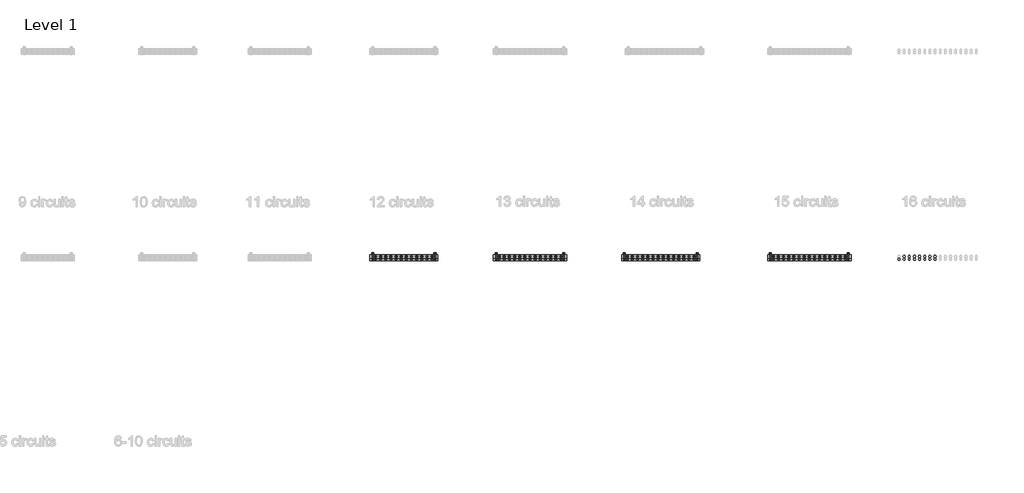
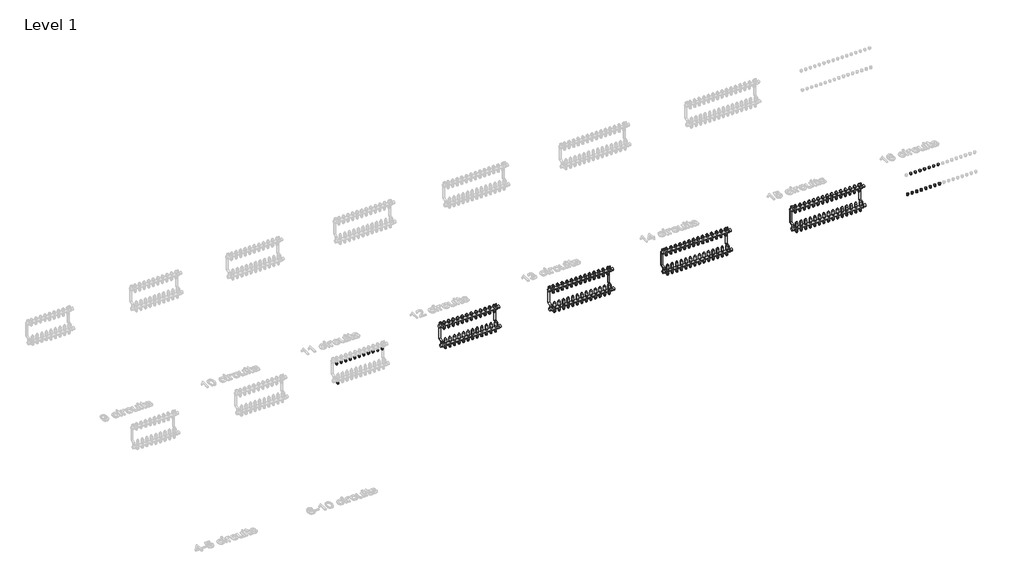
# One storey, part 2 of 13: 135 pipe fittings, 4 valves.
"""IFC4 building model written with IfcOpenShell, lengths in millimetres."""

from ifc_helpers import new_model, si_unit, origin, place, context, project, spatial, transform, mapped, element, save
from components import pipe_fitting_03c6499f, valve_b043caab, valve_d1a48dd4, valve_8c27288c, valve_323f5917, valve_2908c385, valve_c6b07a0e, valve_afcc5f03, valve_d5daf2db, valve_eef75e3c, valve_ba84b301, valve_6797e1c4, valve_e0eb0583, valve_b42ebe50, valve_7d993025, valve_5755080d, valve_f9b138b1

model = new_model("IFC4")

# Units and contexts
model_context = context("Model", 3, world=origin())
ifc_project = project(units=[si_unit("LENGTHUNIT", "METRE", prefix="MILLI")], contexts=[model_context])

# Site, building, storey
site = spatial("IfcSite", under=ifc_project)
building = spatial("IfcBuilding", under=site)
storey = spatial("IfcBuildingStorey", under=building, Name="Level 1", Elevation=0.0)

# Pipe fittings
placement = place(None, origin())
pipe_fitting_shape = pipe_fitting_03c6499f(model_context)
element("IfcPipeFitting", 1, ObjectType="Euroconus screwing for multilayer pipes - Manifold FT : Euroconus screwing for multilayer pipes - Manifold FT", at=placement, inside=storey, context=model_context, shape_type="MappedRepresentation", body=[
    mapped(pipe_fitting_shape, transform((10357.2354504, -417.6772226, -37.0816103), x_axis=(0.0, 0.0, -1.0), y_axis=(0.0, 1.0000000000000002, 0.0), z_axis=(1.0000000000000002, 0.0, 0.0))),
])
element("IfcPipeFitting", 2, ObjectType="Euroconus screwing for multilayer pipes - Manifold FT : Euroconus screwing for multilayer pipes - Manifold FT", at=placement, inside=storey, context=model_context, shape_type="MappedRepresentation", body=[
    mapped(pipe_fitting_shape, transform((10807.2354504, -392.6772226, 172.88733), x_axis=(0.0, 0.0, -1.0), y_axis=(0.0, 1.0000000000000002, 0.0), z_axis=(1.0000000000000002, 0.0, 0.0))),
])
element("IfcPipeFitting", 3, ObjectType="Euroconus screwing for multilayer pipes - Manifold FT : Euroconus screwing for multilayer pipes - Manifold FT", at=placement, inside=storey, context=model_context, shape_type="MappedRepresentation", body=[
    mapped(pipe_fitting_shape, transform((10757.2354504, -392.6772226, 172.88733), x_axis=(0.0, 0.0, -1.0), y_axis=(0.0, 1.0000000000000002, 0.0), z_axis=(1.0000000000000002, 0.0, 0.0))),
])
element("IfcPipeFitting", 4, ObjectType="Euroconus screwing for multilayer pipes - Manifold FT : Euroconus screwing for multilayer pipes - Manifold FT", at=placement, inside=storey, context=model_context, shape_type="MappedRepresentation", body=[
    mapped(pipe_fitting_shape, transform((10707.2354504, -392.6772226, 172.88733), x_axis=(0.0, 0.0, -1.0), y_axis=(0.0, 1.0000000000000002, 0.0), z_axis=(1.0000000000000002, 0.0, 0.0))),
])
element("IfcPipeFitting", 5, ObjectType="Euroconus screwing for multilayer pipes - Manifold FT : Euroconus screwing for multilayer pipes - Manifold FT", at=placement, inside=storey, context=model_context, shape_type="MappedRepresentation", body=[
    mapped(pipe_fitting_shape, transform((10657.2354504, -392.6772226, 172.88733), x_axis=(0.0, 0.0, -1.0), y_axis=(0.0, 1.0000000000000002, 0.0), z_axis=(1.0000000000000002, 0.0, 0.0))),
])
element("IfcPipeFitting", 6, ObjectType="Euroconus screwing for multilayer pipes - Manifold FT : Euroconus screwing for multilayer pipes - Manifold FT", at=placement, inside=storey, context=model_context, shape_type="MappedRepresentation", body=[
    mapped(pipe_fitting_shape, transform((10607.2354504, -392.6772226, 172.88733), x_axis=(0.0, 0.0, -1.0), y_axis=(0.0, 1.0000000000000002, 0.0), z_axis=(1.0000000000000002, 0.0, 0.0))),
])
element("IfcPipeFitting", 7, ObjectType="Euroconus screwing for multilayer pipes - Manifold FT : Euroconus screwing for multilayer pipes - Manifold FT", at=placement, inside=storey, context=model_context, shape_type="MappedRepresentation", body=[
    mapped(pipe_fitting_shape, transform((10557.2354504, -392.6772226, 172.88733), x_axis=(0.0, 0.0, -1.0), y_axis=(0.0, 1.0000000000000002, 0.0), z_axis=(1.0000000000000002, 0.0, 0.0))),
])
element("IfcPipeFitting", 8, ObjectType="Euroconus screwing for multilayer pipes - Manifold FT : Euroconus screwing for multilayer pipes - Manifold FT", at=placement, inside=storey, context=model_context, shape_type="MappedRepresentation", body=[
    mapped(pipe_fitting_shape, transform((10507.2354504, -392.6772226, 172.88733), x_axis=(0.0, 0.0, -1.0), y_axis=(0.0, 1.0000000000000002, 0.0), z_axis=(1.0000000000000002, 0.0, 0.0))),
])
element("IfcPipeFitting", 9, ObjectType="Euroconus screwing for multilayer pipes - Manifold FT : Euroconus screwing for multilayer pipes - Manifold FT", at=placement, inside=storey, context=model_context, shape_type="MappedRepresentation", body=[
    mapped(pipe_fitting_shape, transform((10457.2354504, -392.6772226, 172.88733), x_axis=(0.0, 0.0, -1.0), y_axis=(0.0, 1.0000000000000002, 0.0), z_axis=(1.0000000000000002, 0.0, 0.0))),
])
element("IfcPipeFitting", 10, ObjectType="Euroconus screwing for multilayer pipes - Manifold FT : Euroconus screwing for multilayer pipes - Manifold FT", at=placement, inside=storey, context=model_context, shape_type="MappedRepresentation", body=[
    mapped(pipe_fitting_shape, transform((10407.2354504, -392.6772226, 172.88733), x_axis=(0.0, 0.0, -1.0), y_axis=(0.0, 1.0000000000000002, 0.0), z_axis=(1.0000000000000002, 0.0, 0.0))),
])
element("IfcPipeFitting", 11, ObjectType="Euroconus screwing for multilayer pipes - Manifold FT : Euroconus screwing for multilayer pipes - Manifold FT", at=placement, inside=storey, context=model_context, shape_type="MappedRepresentation", body=[
    mapped(pipe_fitting_shape, transform((10857.2354504, -392.6772226, 172.88733), x_axis=(0.0, 0.0, -1.0), y_axis=(0.0, 1.0000000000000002, 0.0), z_axis=(1.0000000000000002, 0.0, 0.0))),
])
element("IfcPipeFitting", 12, ObjectType="Euroconus screwing for multilayer pipes - Manifold FT : Euroconus screwing for multilayer pipes - Manifold FT", at=placement, inside=storey, context=model_context, shape_type="MappedRepresentation", body=[
    mapped(pipe_fitting_shape, transform((10357.2354504, -392.6772226, 172.88733), x_axis=(0.0, 0.0, -1.0), y_axis=(0.0, 1.0000000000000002, 0.0), z_axis=(1.0000000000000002, 0.0, 0.0))),
])
element("IfcPipeFitting", 13, ObjectType="Euroconus screwing for multilayer pipes - Manifold FT : Euroconus screwing for multilayer pipes - Manifold FT", at=placement, inside=storey, context=model_context, shape_type="MappedRepresentation", body=[
    mapped(pipe_fitting_shape, transform((12037.2354504, -417.6772226, -37.0816103), x_axis=(0.0, 0.0, -1.0), y_axis=(0.0, 1.0000000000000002, 0.0), z_axis=(1.0000000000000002, 0.0, 0.0))),
])
element("IfcPipeFitting", 14, ObjectType="Euroconus screwing for multilayer pipes - Manifold FT : Euroconus screwing for multilayer pipes - Manifold FT", at=placement, inside=storey, context=model_context, shape_type="MappedRepresentation", body=[
    mapped(pipe_fitting_shape, transform((11987.2354504, -417.6772226, -37.0816103), x_axis=(0.0, 0.0, -1.0), y_axis=(0.0, 1.0000000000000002, 0.0), z_axis=(1.0000000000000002, 0.0, 0.0))),
])
element("IfcPipeFitting", 15, ObjectType="Euroconus screwing for multilayer pipes - Manifold FT : Euroconus screwing for multilayer pipes - Manifold FT", at=placement, inside=storey, context=model_context, shape_type="MappedRepresentation", body=[
    mapped(pipe_fitting_shape, transform((11937.2354504, -417.6772226, -37.0816103), x_axis=(0.0, 0.0, -1.0), y_axis=(0.0, 1.0000000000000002, 0.0), z_axis=(1.0000000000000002, 0.0, 0.0))),
])
element("IfcPipeFitting", 16, ObjectType="Euroconus screwing for multilayer pipes - Manifold FT : Euroconus screwing for multilayer pipes - Manifold FT", at=placement, inside=storey, context=model_context, shape_type="MappedRepresentation", body=[
    mapped(pipe_fitting_shape, transform((11887.2354504, -417.6772226, -37.0816103), x_axis=(0.0, 0.0, -1.0), y_axis=(0.0, 1.0000000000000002, 0.0), z_axis=(1.0000000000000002, 0.0, 0.0))),
])
element("IfcPipeFitting", 17, ObjectType="Euroconus screwing for multilayer pipes - Manifold FT : Euroconus screwing for multilayer pipes - Manifold FT", at=placement, inside=storey, context=model_context, shape_type="MappedRepresentation", body=[
    mapped(pipe_fitting_shape, transform((11837.2354504, -417.6772226, -37.0816103), x_axis=(0.0, 0.0, -1.0), y_axis=(0.0, 1.0000000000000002, 0.0), z_axis=(1.0000000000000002, 0.0, 0.0))),
])
element("IfcPipeFitting", 18, ObjectType="Euroconus screwing for multilayer pipes - Manifold FT : Euroconus screwing for multilayer pipes - Manifold FT", at=placement, inside=storey, context=model_context, shape_type="MappedRepresentation", body=[
    mapped(pipe_fitting_shape, transform((11787.2354504, -417.6772226, -37.0816103), x_axis=(0.0, 0.0, -1.0), y_axis=(0.0, 1.0000000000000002, 0.0), z_axis=(1.0000000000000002, 0.0, 0.0))),
])
element("IfcPipeFitting", 19, ObjectType="Euroconus screwing for multilayer pipes - Manifold FT : Euroconus screwing for multilayer pipes - Manifold FT", at=placement, inside=storey, context=model_context, shape_type="MappedRepresentation", body=[
    mapped(pipe_fitting_shape, transform((11737.2354504, -417.6772226, -37.0816103), x_axis=(0.0, 0.0, -1.0), y_axis=(0.0, 1.0000000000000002, 0.0), z_axis=(1.0000000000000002, 0.0, 0.0))),
])
element("IfcPipeFitting", 20, ObjectType="Euroconus screwing for multilayer pipes - Manifold FT : Euroconus screwing for multilayer pipes - Manifold FT", at=placement, inside=storey, context=model_context, shape_type="MappedRepresentation", body=[
    mapped(pipe_fitting_shape, transform((11687.2354504, -417.6772226, -37.0816103), x_axis=(0.0, 0.0, -1.0), y_axis=(0.0, 1.0000000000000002, 0.0), z_axis=(1.0000000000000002, 0.0, 0.0))),
])
element("IfcPipeFitting", 21, ObjectType="Euroconus screwing for multilayer pipes - Manifold FT : Euroconus screwing for multilayer pipes - Manifold FT", at=placement, inside=storey, context=model_context, shape_type="MappedRepresentation", body=[
    mapped(pipe_fitting_shape, transform((11637.2354504, -417.6772226, -37.0816103), x_axis=(0.0, 0.0, -1.0), y_axis=(0.0, 1.0000000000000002, 0.0), z_axis=(1.0000000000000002, 0.0, 0.0))),
])
element("IfcPipeFitting", 22, ObjectType="Euroconus screwing for multilayer pipes - Manifold FT : Euroconus screwing for multilayer pipes - Manifold FT", at=placement, inside=storey, context=model_context, shape_type="MappedRepresentation", body=[
    mapped(pipe_fitting_shape, transform((11587.2354504, -417.6772226, -37.0816103), x_axis=(0.0, 0.0, -1.0), y_axis=(0.0, 1.0000000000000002, 0.0), z_axis=(1.0000000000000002, 0.0, 0.0))),
])
element("IfcPipeFitting", 23, ObjectType="Euroconus screwing for multilayer pipes - Manifold FT : Euroconus screwing for multilayer pipes - Manifold FT", at=placement, inside=storey, context=model_context, shape_type="MappedRepresentation", body=[
    mapped(pipe_fitting_shape, transform((12087.2354504, -417.6772226, -37.0816103), x_axis=(0.0, 0.0, -1.0), y_axis=(0.0, 1.0000000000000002, 0.0), z_axis=(1.0000000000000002, 0.0, 0.0))),
])
element("IfcPipeFitting", 24, ObjectType="Euroconus screwing for multilayer pipes - Manifold FT : Euroconus screwing for multilayer pipes - Manifold FT", at=placement, inside=storey, context=model_context, shape_type="MappedRepresentation", body=[
    mapped(pipe_fitting_shape, transform((11537.2354504, -417.6772226, -37.0816103), x_axis=(0.0, 0.0, -1.0), y_axis=(0.0, 1.0000000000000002, 0.0), z_axis=(1.0000000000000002, 0.0, 0.0))),
])
element("IfcPipeFitting", 25, ObjectType="Euroconus screwing for multilayer pipes - Manifold FT : Euroconus screwing for multilayer pipes - Manifold FT", at=placement, inside=storey, context=model_context, shape_type="MappedRepresentation", body=[
    mapped(pipe_fitting_shape, transform((12037.2354504, -392.6772226, 172.88733), x_axis=(0.0, 0.0, -1.0), y_axis=(0.0, 1.0000000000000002, 0.0), z_axis=(1.0000000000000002, 0.0, 0.0))),
])
element("IfcPipeFitting", 26, ObjectType="Euroconus screwing for multilayer pipes - Manifold FT : Euroconus screwing for multilayer pipes - Manifold FT", at=placement, inside=storey, context=model_context, shape_type="MappedRepresentation", body=[
    mapped(pipe_fitting_shape, transform((11987.2354504, -392.6772226, 172.88733), x_axis=(0.0, 0.0, -1.0), y_axis=(0.0, 1.0000000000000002, 0.0), z_axis=(1.0000000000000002, 0.0, 0.0))),
])
element("IfcPipeFitting", 27, ObjectType="Euroconus screwing for multilayer pipes - Manifold FT : Euroconus screwing for multilayer pipes - Manifold FT", at=placement, inside=storey, context=model_context, shape_type="MappedRepresentation", body=[
    mapped(pipe_fitting_shape, transform((11937.2354504, -392.6772226, 172.88733), x_axis=(0.0, 0.0, -1.0), y_axis=(0.0, 1.0000000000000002, 0.0), z_axis=(1.0000000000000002, 0.0, 0.0))),
])
element("IfcPipeFitting", 28, ObjectType="Euroconus screwing for multilayer pipes - Manifold FT : Euroconus screwing for multilayer pipes - Manifold FT", at=placement, inside=storey, context=model_context, shape_type="MappedRepresentation", body=[
    mapped(pipe_fitting_shape, transform((11887.2354504, -392.6772226, 172.88733), x_axis=(0.0, 0.0, -1.0), y_axis=(0.0, 1.0000000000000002, 0.0), z_axis=(1.0000000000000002, 0.0, 0.0))),
])
element("IfcPipeFitting", 29, ObjectType="Euroconus screwing for multilayer pipes - Manifold FT : Euroconus screwing for multilayer pipes - Manifold FT", at=placement, inside=storey, context=model_context, shape_type="MappedRepresentation", body=[
    mapped(pipe_fitting_shape, transform((11837.2354504, -392.6772226, 172.88733), x_axis=(0.0, 0.0, -1.0), y_axis=(0.0, 1.0000000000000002, 0.0), z_axis=(1.0000000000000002, 0.0, 0.0))),
])
element("IfcPipeFitting", 30, ObjectType="Euroconus screwing for multilayer pipes - Manifold FT : Euroconus screwing for multilayer pipes - Manifold FT", at=placement, inside=storey, context=model_context, shape_type="MappedRepresentation", body=[
    mapped(pipe_fitting_shape, transform((11787.2354504, -392.6772226, 172.88733), x_axis=(0.0, 0.0, -1.0), y_axis=(0.0, 1.0000000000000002, 0.0), z_axis=(1.0000000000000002, 0.0, 0.0))),
])
element("IfcPipeFitting", 31, ObjectType="Euroconus screwing for multilayer pipes - Manifold FT : Euroconus screwing for multilayer pipes - Manifold FT", at=placement, inside=storey, context=model_context, shape_type="MappedRepresentation", body=[
    mapped(pipe_fitting_shape, transform((11737.2354504, -392.6772226, 172.88733), x_axis=(0.0, 0.0, -1.0), y_axis=(0.0, 1.0000000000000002, 0.0), z_axis=(1.0000000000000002, 0.0, 0.0))),
])
element("IfcPipeFitting", 32, ObjectType="Euroconus screwing for multilayer pipes - Manifold FT : Euroconus screwing for multilayer pipes - Manifold FT", at=placement, inside=storey, context=model_context, shape_type="MappedRepresentation", body=[
    mapped(pipe_fitting_shape, transform((11687.2354504, -392.6772226, 172.88733), x_axis=(0.0, 0.0, -1.0), y_axis=(0.0, 1.0000000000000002, 0.0), z_axis=(1.0000000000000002, 0.0, 0.0))),
])
element("IfcPipeFitting", 33, ObjectType="Euroconus screwing for multilayer pipes - Manifold FT : Euroconus screwing for multilayer pipes - Manifold FT", at=placement, inside=storey, context=model_context, shape_type="MappedRepresentation", body=[
    mapped(pipe_fitting_shape, transform((11637.2354504, -392.6772226, 172.88733), x_axis=(0.0, 0.0, -1.0), y_axis=(0.0, 1.0000000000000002, 0.0), z_axis=(1.0000000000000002, 0.0, 0.0))),
])
element("IfcPipeFitting", 34, ObjectType="Euroconus screwing for multilayer pipes - Manifold FT : Euroconus screwing for multilayer pipes - Manifold FT", at=placement, inside=storey, context=model_context, shape_type="MappedRepresentation", body=[
    mapped(pipe_fitting_shape, transform((11587.2354504, -392.6772226, 172.88733), x_axis=(0.0, 0.0, -1.0), y_axis=(0.0, 1.0000000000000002, 0.0), z_axis=(1.0000000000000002, 0.0, 0.0))),
])
element("IfcPipeFitting", 35, ObjectType="Euroconus screwing for multilayer pipes - Manifold FT : Euroconus screwing for multilayer pipes - Manifold FT", at=placement, inside=storey, context=model_context, shape_type="MappedRepresentation", body=[
    mapped(pipe_fitting_shape, transform((12087.2354504, -392.6772226, 172.88733), x_axis=(0.0, 0.0, -1.0), y_axis=(0.0, 1.0000000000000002, 0.0), z_axis=(1.0000000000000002, 0.0, 0.0))),
])
element("IfcPipeFitting", 36, ObjectType="Euroconus screwing for multilayer pipes - Manifold FT : Euroconus screwing for multilayer pipes - Manifold FT", at=placement, inside=storey, context=model_context, shape_type="MappedRepresentation", body=[
    mapped(pipe_fitting_shape, transform((11537.2354504, -392.6772226, 172.88733), x_axis=(0.0, 0.0, -1.0), y_axis=(0.0, 1.0000000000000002, 0.0), z_axis=(1.0000000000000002, 0.0, 0.0))),
])
element("IfcPipeFitting", 37, ObjectType="Euroconus screwing for multilayer pipes - Manifold FT : Euroconus screwing for multilayer pipes - Manifold FT", at=placement, inside=storey, context=model_context, shape_type="MappedRepresentation", body=[
    mapped(pipe_fitting_shape, transform((13287.2354504, -417.6772226, -37.0816103), x_axis=(0.0, 0.0, -1.0), y_axis=(0.0, 1.0000000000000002, 0.0), z_axis=(1.0000000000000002, 0.0, 0.0))),
])
element("IfcPipeFitting", 38, ObjectType="Euroconus screwing for multilayer pipes - Manifold FT : Euroconus screwing for multilayer pipes - Manifold FT", at=placement, inside=storey, context=model_context, shape_type="MappedRepresentation", body=[
    mapped(pipe_fitting_shape, transform((13237.2354504, -417.6772226, -37.0816103), x_axis=(0.0, 0.0, -1.0), y_axis=(0.0, 1.0000000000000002, 0.0), z_axis=(1.0000000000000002, 0.0, 0.0))),
])
element("IfcPipeFitting", 39, ObjectType="Euroconus screwing for multilayer pipes - Manifold FT : Euroconus screwing for multilayer pipes - Manifold FT", at=placement, inside=storey, context=model_context, shape_type="MappedRepresentation", body=[
    mapped(pipe_fitting_shape, transform((13187.2354504, -417.6772226, -37.0816103), x_axis=(0.0, 0.0, -1.0), y_axis=(0.0, 1.0000000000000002, 0.0), z_axis=(1.0000000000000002, 0.0, 0.0))),
])
element("IfcPipeFitting", 40, ObjectType="Euroconus screwing for multilayer pipes - Manifold FT : Euroconus screwing for multilayer pipes - Manifold FT", at=placement, inside=storey, context=model_context, shape_type="MappedRepresentation", body=[
    mapped(pipe_fitting_shape, transform((13137.2354504, -417.6772226, -37.0816103), x_axis=(0.0, 0.0, -1.0), y_axis=(0.0, 1.0000000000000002, 0.0), z_axis=(1.0000000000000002, 0.0, 0.0))),
])
element("IfcPipeFitting", 41, ObjectType="Euroconus screwing for multilayer pipes - Manifold FT : Euroconus screwing for multilayer pipes - Manifold FT", at=placement, inside=storey, context=model_context, shape_type="MappedRepresentation", body=[
    mapped(pipe_fitting_shape, transform((13087.2354504, -417.6772226, -37.0816103), x_axis=(0.0, 0.0, -1.0), y_axis=(0.0, 1.0000000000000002, 0.0), z_axis=(1.0000000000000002, 0.0, 0.0))),
])
element("IfcPipeFitting", 42, ObjectType="Euroconus screwing for multilayer pipes - Manifold FT : Euroconus screwing for multilayer pipes - Manifold FT", at=placement, inside=storey, context=model_context, shape_type="MappedRepresentation", body=[
    mapped(pipe_fitting_shape, transform((13037.2354504, -417.6772226, -37.0816103), x_axis=(0.0, 0.0, -1.0), y_axis=(0.0, 1.0000000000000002, 0.0), z_axis=(1.0000000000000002, 0.0, 0.0))),
])
element("IfcPipeFitting", 43, ObjectType="Euroconus screwing for multilayer pipes - Manifold FT : Euroconus screwing for multilayer pipes - Manifold FT", at=placement, inside=storey, context=model_context, shape_type="MappedRepresentation", body=[
    mapped(pipe_fitting_shape, transform((12987.2354504, -417.6772226, -37.0816103), x_axis=(0.0, 0.0, -1.0), y_axis=(0.0, 1.0000000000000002, 0.0), z_axis=(1.0000000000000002, 0.0, 0.0))),
])
element("IfcPipeFitting", 44, ObjectType="Euroconus screwing for multilayer pipes - Manifold FT : Euroconus screwing for multilayer pipes - Manifold FT", at=placement, inside=storey, context=model_context, shape_type="MappedRepresentation", body=[
    mapped(pipe_fitting_shape, transform((12937.2354504, -417.6772226, -37.0816103), x_axis=(0.0, 0.0, -1.0), y_axis=(0.0, 1.0000000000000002, 0.0), z_axis=(1.0000000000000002, 0.0, 0.0))),
])
element("IfcPipeFitting", 45, ObjectType="Euroconus screwing for multilayer pipes - Manifold FT : Euroconus screwing for multilayer pipes - Manifold FT", at=placement, inside=storey, context=model_context, shape_type="MappedRepresentation", body=[
    mapped(pipe_fitting_shape, transform((12887.2354504, -417.6772226, -37.0816103), x_axis=(0.0, 0.0, -1.0), y_axis=(0.0, 1.0000000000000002, 0.0), z_axis=(1.0000000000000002, 0.0, 0.0))),
])
element("IfcPipeFitting", 46, ObjectType="Euroconus screwing for multilayer pipes - Manifold FT : Euroconus screwing for multilayer pipes - Manifold FT", at=placement, inside=storey, context=model_context, shape_type="MappedRepresentation", body=[
    mapped(pipe_fitting_shape, transform((12837.2354504, -417.6772226, -37.0816103), x_axis=(0.0, 0.0, -1.0), y_axis=(0.0, 1.0000000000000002, 0.0), z_axis=(1.0000000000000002, 0.0, 0.0))),
])
element("IfcPipeFitting", 47, ObjectType="Euroconus screwing for multilayer pipes - Manifold FT : Euroconus screwing for multilayer pipes - Manifold FT", at=placement, inside=storey, context=model_context, shape_type="MappedRepresentation", body=[
    mapped(pipe_fitting_shape, transform((12787.2354504, -417.6772226, -37.0816103), x_axis=(0.0, 0.0, -1.0), y_axis=(0.0, 1.0000000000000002, 0.0), z_axis=(1.0000000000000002, 0.0, 0.0))),
])
element("IfcPipeFitting", 48, ObjectType="Euroconus screwing for multilayer pipes - Manifold FT : Euroconus screwing for multilayer pipes - Manifold FT", at=placement, inside=storey, context=model_context, shape_type="MappedRepresentation", body=[
    mapped(pipe_fitting_shape, transform((13337.2354504, -417.6772226, -37.0816103), x_axis=(0.0, 0.0, -1.0), y_axis=(0.0, 1.0000000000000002, 0.0), z_axis=(1.0000000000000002, 0.0, 0.0))),
])
element("IfcPipeFitting", 49, ObjectType="Euroconus screwing for multilayer pipes - Manifold FT : Euroconus screwing for multilayer pipes - Manifold FT", at=placement, inside=storey, context=model_context, shape_type="MappedRepresentation", body=[
    mapped(pipe_fitting_shape, transform((12737.2354504, -417.6772226, -37.0816103), x_axis=(0.0, 0.0, -1.0), y_axis=(0.0, 1.0000000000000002, 0.0), z_axis=(1.0000000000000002, 0.0, 0.0))),
])
element("IfcPipeFitting", 50, ObjectType="Euroconus screwing for multilayer pipes - Manifold FT : Euroconus screwing for multilayer pipes - Manifold FT", at=placement, inside=storey, context=model_context, shape_type="MappedRepresentation", body=[
    mapped(pipe_fitting_shape, transform((13287.2354504, -392.6772226, 172.88733), x_axis=(0.0, 0.0, -1.0), y_axis=(0.0, 1.0000000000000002, 0.0), z_axis=(1.0000000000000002, 0.0, 0.0))),
])
element("IfcPipeFitting", 51, ObjectType="Euroconus screwing for multilayer pipes - Manifold FT : Euroconus screwing for multilayer pipes - Manifold FT", at=placement, inside=storey, context=model_context, shape_type="MappedRepresentation", body=[
    mapped(pipe_fitting_shape, transform((13237.2354504, -392.6772226, 172.88733), x_axis=(0.0, 0.0, -1.0), y_axis=(0.0, 1.0000000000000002, 0.0), z_axis=(1.0000000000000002, 0.0, 0.0))),
])
element("IfcPipeFitting", 52, ObjectType="Euroconus screwing for multilayer pipes - Manifold FT : Euroconus screwing for multilayer pipes - Manifold FT", at=placement, inside=storey, context=model_context, shape_type="MappedRepresentation", body=[
    mapped(pipe_fitting_shape, transform((13187.2354504, -392.6772226, 172.88733), x_axis=(0.0, 0.0, -1.0), y_axis=(0.0, 1.0000000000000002, 0.0), z_axis=(1.0000000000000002, 0.0, 0.0))),
])
element("IfcPipeFitting", 53, ObjectType="Euroconus screwing for multilayer pipes - Manifold FT : Euroconus screwing for multilayer pipes - Manifold FT", at=placement, inside=storey, context=model_context, shape_type="MappedRepresentation", body=[
    mapped(pipe_fitting_shape, transform((13137.2354504, -392.6772226, 172.88733), x_axis=(0.0, 0.0, -1.0), y_axis=(0.0, 1.0000000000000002, 0.0), z_axis=(1.0000000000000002, 0.0, 0.0))),
])
element("IfcPipeFitting", 54, ObjectType="Euroconus screwing for multilayer pipes - Manifold FT : Euroconus screwing for multilayer pipes - Manifold FT", at=placement, inside=storey, context=model_context, shape_type="MappedRepresentation", body=[
    mapped(pipe_fitting_shape, transform((13087.2354504, -392.6772226, 172.88733), x_axis=(0.0, 0.0, -1.0), y_axis=(0.0, 1.0000000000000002, 0.0), z_axis=(1.0000000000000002, 0.0, 0.0))),
])
element("IfcPipeFitting", 55, ObjectType="Euroconus screwing for multilayer pipes - Manifold FT : Euroconus screwing for multilayer pipes - Manifold FT", at=placement, inside=storey, context=model_context, shape_type="MappedRepresentation", body=[
    mapped(pipe_fitting_shape, transform((13037.2354504, -392.6772226, 172.88733), x_axis=(0.0, 0.0, -1.0), y_axis=(0.0, 1.0000000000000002, 0.0), z_axis=(1.0000000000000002, 0.0, 0.0))),
])
element("IfcPipeFitting", 56, ObjectType="Euroconus screwing for multilayer pipes - Manifold FT : Euroconus screwing for multilayer pipes - Manifold FT", at=placement, inside=storey, context=model_context, shape_type="MappedRepresentation", body=[
    mapped(pipe_fitting_shape, transform((12987.2354504, -392.6772226, 172.88733), x_axis=(0.0, 0.0, -1.0), y_axis=(0.0, 1.0000000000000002, 0.0), z_axis=(1.0000000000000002, 0.0, 0.0))),
])
element("IfcPipeFitting", 57, ObjectType="Euroconus screwing for multilayer pipes - Manifold FT : Euroconus screwing for multilayer pipes - Manifold FT", at=placement, inside=storey, context=model_context, shape_type="MappedRepresentation", body=[
    mapped(pipe_fitting_shape, transform((12937.2354504, -392.6772226, 172.88733), x_axis=(0.0, 0.0, -1.0), y_axis=(0.0, 1.0000000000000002, 0.0), z_axis=(1.0000000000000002, 0.0, 0.0))),
])
element("IfcPipeFitting", 58, ObjectType="Euroconus screwing for multilayer pipes - Manifold FT : Euroconus screwing for multilayer pipes - Manifold FT", at=placement, inside=storey, context=model_context, shape_type="MappedRepresentation", body=[
    mapped(pipe_fitting_shape, transform((12887.2354504, -392.6772226, 172.88733), x_axis=(0.0, 0.0, -1.0), y_axis=(0.0, 1.0000000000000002, 0.0), z_axis=(1.0000000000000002, 0.0, 0.0))),
])
element("IfcPipeFitting", 59, ObjectType="Euroconus screwing for multilayer pipes - Manifold FT : Euroconus screwing for multilayer pipes - Manifold FT", at=placement, inside=storey, context=model_context, shape_type="MappedRepresentation", body=[
    mapped(pipe_fitting_shape, transform((12837.2354504, -392.6772226, 172.88733), x_axis=(0.0, 0.0, -1.0), y_axis=(0.0, 1.0000000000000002, 0.0), z_axis=(1.0000000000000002, 0.0, 0.0))),
])
element("IfcPipeFitting", 60, ObjectType="Euroconus screwing for multilayer pipes - Manifold FT : Euroconus screwing for multilayer pipes - Manifold FT", at=placement, inside=storey, context=model_context, shape_type="MappedRepresentation", body=[
    mapped(pipe_fitting_shape, transform((12787.2354504, -392.6772226, 172.88733), x_axis=(0.0, 0.0, -1.0), y_axis=(0.0, 1.0000000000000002, 0.0), z_axis=(1.0000000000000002, 0.0, 0.0))),
])
element("IfcPipeFitting", 61, ObjectType="Euroconus screwing for multilayer pipes - Manifold FT : Euroconus screwing for multilayer pipes - Manifold FT", at=placement, inside=storey, context=model_context, shape_type="MappedRepresentation", body=[
    mapped(pipe_fitting_shape, transform((13337.2354504, -392.6772226, 172.88733), x_axis=(0.0, 0.0, -1.0), y_axis=(0.0, 1.0000000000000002, 0.0), z_axis=(1.0000000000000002, 0.0, 0.0))),
])
element("IfcPipeFitting", 62, ObjectType="Euroconus screwing for multilayer pipes - Manifold FT : Euroconus screwing for multilayer pipes - Manifold FT", at=placement, inside=storey, context=model_context, shape_type="MappedRepresentation", body=[
    mapped(pipe_fitting_shape, transform((12737.2354504, -392.6772226, 172.88733), x_axis=(0.0, 0.0, -1.0), y_axis=(0.0, 1.0000000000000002, 0.0), z_axis=(1.0000000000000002, 0.0, 0.0))),
])
element("IfcPipeFitting", 63, ObjectType="Euroconus screwing for multilayer pipes - Manifold FT : Euroconus screwing for multilayer pipes - Manifold FT", at=placement, inside=storey, context=model_context, shape_type="MappedRepresentation", body=[
    mapped(pipe_fitting_shape, transform((14580.008683, -417.6772226, -37.0816103), x_axis=(0.0, 0.0, -1.0), y_axis=(0.0, 1.0000000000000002, 0.0), z_axis=(1.0000000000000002, 0.0, 0.0))),
])
element("IfcPipeFitting", 64, ObjectType="Euroconus screwing for multilayer pipes - Manifold FT : Euroconus screwing for multilayer pipes - Manifold FT", at=placement, inside=storey, context=model_context, shape_type="MappedRepresentation", body=[
    mapped(pipe_fitting_shape, transform((14530.008683, -417.6772226, -37.0816103), x_axis=(0.0, 0.0, -1.0), y_axis=(0.0, 1.0000000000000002, 0.0), z_axis=(1.0000000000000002, 0.0, 0.0))),
])
element("IfcPipeFitting", 65, ObjectType="Euroconus screwing for multilayer pipes - Manifold FT : Euroconus screwing for multilayer pipes - Manifold FT", at=placement, inside=storey, context=model_context, shape_type="MappedRepresentation", body=[
    mapped(pipe_fitting_shape, transform((14480.008683, -417.6772226, -37.0816103), x_axis=(0.0, 0.0, -1.0), y_axis=(0.0, 1.0000000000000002, 0.0), z_axis=(1.0000000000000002, 0.0, 0.0))),
])
element("IfcPipeFitting", 66, ObjectType="Euroconus screwing for multilayer pipes - Manifold FT : Euroconus screwing for multilayer pipes - Manifold FT", at=placement, inside=storey, context=model_context, shape_type="MappedRepresentation", body=[
    mapped(pipe_fitting_shape, transform((14430.008683, -417.6772226, -37.0816103), x_axis=(0.0, 0.0, -1.0), y_axis=(0.0, 1.0000000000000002, 0.0), z_axis=(1.0000000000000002, 0.0, 0.0))),
])
element("IfcPipeFitting", 67, ObjectType="Euroconus screwing for multilayer pipes - Manifold FT : Euroconus screwing for multilayer pipes - Manifold FT", at=placement, inside=storey, context=model_context, shape_type="MappedRepresentation", body=[
    mapped(pipe_fitting_shape, transform((14380.008683, -417.6772226, -37.0816103), x_axis=(0.0, 0.0, -1.0), y_axis=(0.0, 1.0000000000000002, 0.0), z_axis=(1.0000000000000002, 0.0, 0.0))),
])
element("IfcPipeFitting", 68, ObjectType="Euroconus screwing for multilayer pipes - Manifold FT : Euroconus screwing for multilayer pipes - Manifold FT", at=placement, inside=storey, context=model_context, shape_type="MappedRepresentation", body=[
    mapped(pipe_fitting_shape, transform((14330.008683, -417.6772226, -37.0816103), x_axis=(0.0, 0.0, -1.0), y_axis=(0.0, 1.0000000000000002, 0.0), z_axis=(1.0000000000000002, 0.0, 0.0))),
])
element("IfcPipeFitting", 69, ObjectType="Euroconus screwing for multilayer pipes - Manifold FT : Euroconus screwing for multilayer pipes - Manifold FT", at=placement, inside=storey, context=model_context, shape_type="MappedRepresentation", body=[
    mapped(pipe_fitting_shape, transform((14280.008683, -417.6772226, -37.0816103), x_axis=(0.0, 0.0, -1.0), y_axis=(0.0, 1.0000000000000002, 0.0), z_axis=(1.0000000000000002, 0.0, 0.0))),
])
element("IfcPipeFitting", 70, ObjectType="Euroconus screwing for multilayer pipes - Manifold FT : Euroconus screwing for multilayer pipes - Manifold FT", at=placement, inside=storey, context=model_context, shape_type="MappedRepresentation", body=[
    mapped(pipe_fitting_shape, transform((14230.008683, -417.6772226, -37.0816103), x_axis=(0.0, 0.0, -1.0), y_axis=(0.0, 1.0000000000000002, 0.0), z_axis=(1.0000000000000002, 0.0, 0.0))),
])
element("IfcPipeFitting", 71, ObjectType="Euroconus screwing for multilayer pipes - Manifold FT : Euroconus screwing for multilayer pipes - Manifold FT", at=placement, inside=storey, context=model_context, shape_type="MappedRepresentation", body=[
    mapped(pipe_fitting_shape, transform((14180.008683, -417.6772226, -37.0816103), x_axis=(0.0, 0.0, -1.0), y_axis=(0.0, 1.0000000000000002, 0.0), z_axis=(1.0000000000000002, 0.0, 0.0))),
])
element("IfcPipeFitting", 72, ObjectType="Euroconus screwing for multilayer pipes - Manifold FT : Euroconus screwing for multilayer pipes - Manifold FT", at=placement, inside=storey, context=model_context, shape_type="MappedRepresentation", body=[
    mapped(pipe_fitting_shape, transform((14130.008683, -417.6772226, -37.0816103), x_axis=(0.0, 0.0, -1.0), y_axis=(0.0, 1.0000000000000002, 0.0), z_axis=(1.0000000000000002, 0.0, 0.0))),
])
element("IfcPipeFitting", 73, ObjectType="Euroconus screwing for multilayer pipes - Manifold FT : Euroconus screwing for multilayer pipes - Manifold FT", at=placement, inside=storey, context=model_context, shape_type="MappedRepresentation", body=[
    mapped(pipe_fitting_shape, transform((14080.008683, -417.6772226, -37.0816103), x_axis=(0.0, 0.0, -1.0), y_axis=(0.0, 1.0000000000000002, 0.0), z_axis=(1.0000000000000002, 0.0, 0.0))),
])
element("IfcPipeFitting", 74, ObjectType="Euroconus screwing for multilayer pipes - Manifold FT : Euroconus screwing for multilayer pipes - Manifold FT", at=placement, inside=storey, context=model_context, shape_type="MappedRepresentation", body=[
    mapped(pipe_fitting_shape, transform((14030.008683, -417.6772226, -37.0816103), x_axis=(0.0, 0.0, -1.0), y_axis=(0.0, 1.0000000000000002, 0.0), z_axis=(1.0000000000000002, 0.0, 0.0))),
])
element("IfcPipeFitting", 75, ObjectType="Euroconus screwing for multilayer pipes - Manifold FT : Euroconus screwing for multilayer pipes - Manifold FT", at=placement, inside=storey, context=model_context, shape_type="MappedRepresentation", body=[
    mapped(pipe_fitting_shape, transform((14630.008683, -417.6772226, -37.0816103), x_axis=(0.0, 0.0, -1.0), y_axis=(0.0, 1.0000000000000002, 0.0), z_axis=(1.0000000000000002, 0.0, 0.0))),
])
element("IfcPipeFitting", 76, ObjectType="Euroconus screwing for multilayer pipes - Manifold FT : Euroconus screwing for multilayer pipes - Manifold FT", at=placement, inside=storey, context=model_context, shape_type="MappedRepresentation", body=[
    mapped(pipe_fitting_shape, transform((13980.008683, -417.6772226, -37.0816103), x_axis=(0.0, 0.0, -1.0), y_axis=(0.0, 1.0000000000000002, 0.0), z_axis=(1.0000000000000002, 0.0, 0.0))),
])
element("IfcPipeFitting", 77, ObjectType="Euroconus screwing for multilayer pipes - Manifold FT : Euroconus screwing for multilayer pipes - Manifold FT", at=placement, inside=storey, context=model_context, shape_type="MappedRepresentation", body=[
    mapped(pipe_fitting_shape, transform((14580.008683, -392.6772226, 172.88733), x_axis=(0.0, 0.0, -1.0), y_axis=(0.0, 1.0000000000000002, 0.0), z_axis=(1.0000000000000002, 0.0, 0.0))),
])
element("IfcPipeFitting", 78, ObjectType="Euroconus screwing for multilayer pipes - Manifold FT : Euroconus screwing for multilayer pipes - Manifold FT", at=placement, inside=storey, context=model_context, shape_type="MappedRepresentation", body=[
    mapped(pipe_fitting_shape, transform((14530.008683, -392.6772226, 172.88733), x_axis=(0.0, 0.0, -1.0), y_axis=(0.0, 1.0000000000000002, 0.0), z_axis=(1.0000000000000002, 0.0, 0.0))),
])
element("IfcPipeFitting", 79, ObjectType="Euroconus screwing for multilayer pipes - Manifold FT : Euroconus screwing for multilayer pipes - Manifold FT", at=placement, inside=storey, context=model_context, shape_type="MappedRepresentation", body=[
    mapped(pipe_fitting_shape, transform((14480.008683, -392.6772226, 172.88733), x_axis=(0.0, 0.0, -1.0), y_axis=(0.0, 1.0000000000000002, 0.0), z_axis=(1.0000000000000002, 0.0, 0.0))),
])
element("IfcPipeFitting", 80, ObjectType="Euroconus screwing for multilayer pipes - Manifold FT : Euroconus screwing for multilayer pipes - Manifold FT", at=placement, inside=storey, context=model_context, shape_type="MappedRepresentation", body=[
    mapped(pipe_fitting_shape, transform((14430.008683, -392.6772226, 172.88733), x_axis=(0.0, 0.0, -1.0), y_axis=(0.0, 1.0000000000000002, 0.0), z_axis=(1.0000000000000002, 0.0, 0.0))),
])
element("IfcPipeFitting", 81, ObjectType="Euroconus screwing for multilayer pipes - Manifold FT : Euroconus screwing for multilayer pipes - Manifold FT", at=placement, inside=storey, context=model_context, shape_type="MappedRepresentation", body=[
    mapped(pipe_fitting_shape, transform((14380.008683, -392.6772226, 172.88733), x_axis=(0.0, 0.0, -1.0), y_axis=(0.0, 1.0000000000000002, 0.0), z_axis=(1.0000000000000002, 0.0, 0.0))),
])
element("IfcPipeFitting", 82, ObjectType="Euroconus screwing for multilayer pipes - Manifold FT : Euroconus screwing for multilayer pipes - Manifold FT", at=placement, inside=storey, context=model_context, shape_type="MappedRepresentation", body=[
    mapped(pipe_fitting_shape, transform((14330.008683, -392.6772226, 172.88733), x_axis=(0.0, 0.0, -1.0), y_axis=(0.0, 1.0000000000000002, 0.0), z_axis=(1.0000000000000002, 0.0, 0.0))),
])
element("IfcPipeFitting", 83, ObjectType="Euroconus screwing for multilayer pipes - Manifold FT : Euroconus screwing for multilayer pipes - Manifold FT", at=placement, inside=storey, context=model_context, shape_type="MappedRepresentation", body=[
    mapped(pipe_fitting_shape, transform((14280.008683, -392.6772226, 172.88733), x_axis=(0.0, 0.0, -1.0), y_axis=(0.0, 1.0000000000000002, 0.0), z_axis=(1.0000000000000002, 0.0, 0.0))),
])
element("IfcPipeFitting", 84, ObjectType="Euroconus screwing for multilayer pipes - Manifold FT : Euroconus screwing for multilayer pipes - Manifold FT", at=placement, inside=storey, context=model_context, shape_type="MappedRepresentation", body=[
    mapped(pipe_fitting_shape, transform((14230.008683, -392.6772226, 172.88733), x_axis=(0.0, 0.0, -1.0), y_axis=(0.0, 1.0000000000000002, 0.0), z_axis=(1.0000000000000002, 0.0, 0.0))),
])
element("IfcPipeFitting", 85, ObjectType="Euroconus screwing for multilayer pipes - Manifold FT : Euroconus screwing for multilayer pipes - Manifold FT", at=placement, inside=storey, context=model_context, shape_type="MappedRepresentation", body=[
    mapped(pipe_fitting_shape, transform((14180.008683, -392.6772226, 172.88733), x_axis=(0.0, 0.0, -1.0), y_axis=(0.0, 1.0000000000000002, 0.0), z_axis=(1.0000000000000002, 0.0, 0.0))),
])
element("IfcPipeFitting", 86, ObjectType="Euroconus screwing for multilayer pipes - Manifold FT : Euroconus screwing for multilayer pipes - Manifold FT", at=placement, inside=storey, context=model_context, shape_type="MappedRepresentation", body=[
    mapped(pipe_fitting_shape, transform((14130.008683, -392.6772226, 172.88733), x_axis=(0.0, 0.0, -1.0), y_axis=(0.0, 1.0000000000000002, 0.0), z_axis=(1.0000000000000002, 0.0, 0.0))),
])
element("IfcPipeFitting", 87, ObjectType="Euroconus screwing for multilayer pipes - Manifold FT : Euroconus screwing for multilayer pipes - Manifold FT", at=placement, inside=storey, context=model_context, shape_type="MappedRepresentation", body=[
    mapped(pipe_fitting_shape, transform((14080.008683, -392.6772226, 172.88733), x_axis=(0.0, 0.0, -1.0), y_axis=(0.0, 1.0000000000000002, 0.0), z_axis=(1.0000000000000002, 0.0, 0.0))),
])
element("IfcPipeFitting", 88, ObjectType="Euroconus screwing for multilayer pipes - Manifold FT : Euroconus screwing for multilayer pipes - Manifold FT", at=placement, inside=storey, context=model_context, shape_type="MappedRepresentation", body=[
    mapped(pipe_fitting_shape, transform((14030.008683, -392.6772226, 172.88733), x_axis=(0.0, 0.0, -1.0), y_axis=(0.0, 1.0000000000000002, 0.0), z_axis=(1.0000000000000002, 0.0, 0.0))),
])
element("IfcPipeFitting", 89, ObjectType="Euroconus screwing for multilayer pipes - Manifold FT : Euroconus screwing for multilayer pipes - Manifold FT", at=placement, inside=storey, context=model_context, shape_type="MappedRepresentation", body=[
    mapped(pipe_fitting_shape, transform((14630.008683, -392.6772226, 172.88733), x_axis=(0.0, 0.0, -1.0), y_axis=(0.0, 1.0000000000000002, 0.0), z_axis=(1.0000000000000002, 0.0, 0.0))),
])
element("IfcPipeFitting", 90, ObjectType="Euroconus screwing for multilayer pipes - Manifold FT : Euroconus screwing for multilayer pipes - Manifold FT", at=placement, inside=storey, context=model_context, shape_type="MappedRepresentation", body=[
    mapped(pipe_fitting_shape, transform((13980.008683, -392.6772226, 172.88733), x_axis=(0.0, 0.0, -1.0), y_axis=(0.0, 1.0000000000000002, 0.0), z_axis=(1.0000000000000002, 0.0, 0.0))),
])
element("IfcPipeFitting", 91, ObjectType="Euroconus screwing for multilayer pipes - Manifold FT : Euroconus screwing for multilayer pipes - Manifold FT", at=placement, inside=storey, context=model_context, shape_type="MappedRepresentation", body=[
    mapped(pipe_fitting_shape, transform((16047.2354504, -417.6772226, -37.0816103), x_axis=(0.0, 0.0, -1.0), y_axis=(0.0, 1.0000000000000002, 0.0), z_axis=(1.0000000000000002, 0.0, 0.0))),
])
element("IfcPipeFitting", 92, ObjectType="Euroconus screwing for multilayer pipes - Manifold FT : Euroconus screwing for multilayer pipes - Manifold FT", at=placement, inside=storey, context=model_context, shape_type="MappedRepresentation", body=[
    mapped(pipe_fitting_shape, transform((15997.2354504, -417.6772226, -37.0816103), x_axis=(0.0, 0.0, -1.0), y_axis=(0.0, 1.0000000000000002, 0.0), z_axis=(1.0000000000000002, 0.0, 0.0))),
])
element("IfcPipeFitting", 93, ObjectType="Euroconus screwing for multilayer pipes - Manifold FT : Euroconus screwing for multilayer pipes - Manifold FT", at=placement, inside=storey, context=model_context, shape_type="MappedRepresentation", body=[
    mapped(pipe_fitting_shape, transform((15947.2354504, -417.6772226, -37.0816103), x_axis=(0.0, 0.0, -1.0), y_axis=(0.0, 1.0000000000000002, 0.0), z_axis=(1.0000000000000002, 0.0, 0.0))),
])
element("IfcPipeFitting", 94, ObjectType="Euroconus screwing for multilayer pipes - Manifold FT : Euroconus screwing for multilayer pipes - Manifold FT", at=placement, inside=storey, context=model_context, shape_type="MappedRepresentation", body=[
    mapped(pipe_fitting_shape, transform((15897.2354504, -417.6772226, -37.0816103), x_axis=(0.0, 0.0, -1.0), y_axis=(0.0, 1.0000000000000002, 0.0), z_axis=(1.0000000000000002, 0.0, 0.0))),
])
element("IfcPipeFitting", 95, ObjectType="Euroconus screwing for multilayer pipes - Manifold FT : Euroconus screwing for multilayer pipes - Manifold FT", at=placement, inside=storey, context=model_context, shape_type="MappedRepresentation", body=[
    mapped(pipe_fitting_shape, transform((15847.2354504, -417.6772226, -37.0816103), x_axis=(0.0, 0.0, -1.0), y_axis=(0.0, 1.0000000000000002, 0.0), z_axis=(1.0000000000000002, 0.0, 0.0))),
])
element("IfcPipeFitting", 96, ObjectType="Euroconus screwing for multilayer pipes - Manifold FT : Euroconus screwing for multilayer pipes - Manifold FT", at=placement, inside=storey, context=model_context, shape_type="MappedRepresentation", body=[
    mapped(pipe_fitting_shape, transform((15797.2354504, -417.6772226, -37.0816103), x_axis=(0.0, 0.0, -1.0), y_axis=(0.0, 1.0000000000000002, 0.0), z_axis=(1.0000000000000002, 0.0, 0.0))),
])
element("IfcPipeFitting", 97, ObjectType="Euroconus screwing for multilayer pipes - Manifold FT : Euroconus screwing for multilayer pipes - Manifold FT", at=placement, inside=storey, context=model_context, shape_type="MappedRepresentation", body=[
    mapped(pipe_fitting_shape, transform((15747.2354504, -417.6772226, -37.0816103), x_axis=(0.0, 0.0, -1.0), y_axis=(0.0, 1.0000000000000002, 0.0), z_axis=(1.0000000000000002, 0.0, 0.0))),
])
element("IfcPipeFitting", 98, ObjectType="Euroconus screwing for multilayer pipes - Manifold FT : Euroconus screwing for multilayer pipes - Manifold FT", at=placement, inside=storey, context=model_context, shape_type="MappedRepresentation", body=[
    mapped(pipe_fitting_shape, transform((15697.2354504, -417.6772226, -37.0816103), x_axis=(0.0, 0.0, -1.0), y_axis=(0.0, 1.0000000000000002, 0.0), z_axis=(1.0000000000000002, 0.0, 0.0))),
])
element("IfcPipeFitting", 99, ObjectType="Euroconus screwing for multilayer pipes - Manifold FT : Euroconus screwing for multilayer pipes - Manifold FT", at=placement, inside=storey, context=model_context, shape_type="MappedRepresentation", body=[
    mapped(pipe_fitting_shape, transform((15647.2354504, -417.6772226, -37.0816103), x_axis=(0.0, 0.0, -1.0), y_axis=(0.0, 1.0000000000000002, 0.0), z_axis=(1.0000000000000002, 0.0, 0.0))),
])
element("IfcPipeFitting", 100, ObjectType="Euroconus screwing for multilayer pipes - Manifold FT : Euroconus screwing for multilayer pipes - Manifold FT", at=placement, inside=storey, context=model_context, shape_type="MappedRepresentation", body=[
    mapped(pipe_fitting_shape, transform((15597.2354504, -417.6772226, -37.0816103), x_axis=(0.0, 0.0, -1.0), y_axis=(0.0, 1.0000000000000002, 0.0), z_axis=(1.0000000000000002, 0.0, 0.0))),
])
element("IfcPipeFitting", 101, ObjectType="Euroconus screwing for multilayer pipes - Manifold FT : Euroconus screwing for multilayer pipes - Manifold FT", at=placement, inside=storey, context=model_context, shape_type="MappedRepresentation", body=[
    mapped(pipe_fitting_shape, transform((15547.2354504, -417.6772226, -37.0816103), x_axis=(0.0, 0.0, -1.0), y_axis=(0.0, 1.0000000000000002, 0.0), z_axis=(1.0000000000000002, 0.0, 0.0))),
])
element("IfcPipeFitting", 102, ObjectType="Euroconus screwing for multilayer pipes - Manifold FT : Euroconus screwing for multilayer pipes - Manifold FT", at=placement, inside=storey, context=model_context, shape_type="MappedRepresentation", body=[
    mapped(pipe_fitting_shape, transform((15497.2354504, -417.6772226, -37.0816103), x_axis=(0.0, 0.0, -1.0), y_axis=(0.0, 1.0000000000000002, 0.0), z_axis=(1.0000000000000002, 0.0, 0.0))),
])
element("IfcPipeFitting", 103, ObjectType="Euroconus screwing for multilayer pipes - Manifold FT : Euroconus screwing for multilayer pipes - Manifold FT", at=placement, inside=storey, context=model_context, shape_type="MappedRepresentation", body=[
    mapped(pipe_fitting_shape, transform((15447.2354504, -417.6772226, -37.0816103), x_axis=(0.0, 0.0, -1.0), y_axis=(0.0, 1.0000000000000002, 0.0), z_axis=(1.0000000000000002, 0.0, 0.0))),
])
element("IfcPipeFitting", 104, ObjectType="Euroconus screwing for multilayer pipes - Manifold FT : Euroconus screwing for multilayer pipes - Manifold FT", at=placement, inside=storey, context=model_context, shape_type="MappedRepresentation", body=[
    mapped(pipe_fitting_shape, transform((16097.2354504, -417.6772226, -37.0816103), x_axis=(0.0, 0.0, -1.0), y_axis=(0.0, 1.0000000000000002, 0.0), z_axis=(1.0000000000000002, 0.0, 0.0))),
])
element("IfcPipeFitting", 105, ObjectType="Euroconus screwing for multilayer pipes - Manifold FT : Euroconus screwing for multilayer pipes - Manifold FT", at=placement, inside=storey, context=model_context, shape_type="MappedRepresentation", body=[
    mapped(pipe_fitting_shape, transform((15397.2354504, -417.6772226, -37.0816103), x_axis=(0.0, 0.0, -1.0), y_axis=(0.0, 1.0000000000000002, 0.0), z_axis=(1.0000000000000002, 0.0, 0.0))),
])
element("IfcPipeFitting", 106, ObjectType="Euroconus screwing for multilayer pipes - Manifold FT : Euroconus screwing for multilayer pipes - Manifold FT", at=placement, inside=storey, context=model_context, shape_type="MappedRepresentation", body=[
    mapped(pipe_fitting_shape, transform((16047.2354504, -392.6772226, 172.88733), x_axis=(0.0, 0.0, -1.0), y_axis=(0.0, 1.0000000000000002, 0.0), z_axis=(1.0000000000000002, 0.0, 0.0))),
])
element("IfcPipeFitting", 107, ObjectType="Euroconus screwing for multilayer pipes - Manifold FT : Euroconus screwing for multilayer pipes - Manifold FT", at=placement, inside=storey, context=model_context, shape_type="MappedRepresentation", body=[
    mapped(pipe_fitting_shape, transform((15997.2354504, -392.6772226, 172.88733), x_axis=(0.0, 0.0, -1.0), y_axis=(0.0, 1.0000000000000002, 0.0), z_axis=(1.0000000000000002, 0.0, 0.0))),
])
element("IfcPipeFitting", 108, ObjectType="Euroconus screwing for multilayer pipes - Manifold FT : Euroconus screwing for multilayer pipes - Manifold FT", at=placement, inside=storey, context=model_context, shape_type="MappedRepresentation", body=[
    mapped(pipe_fitting_shape, transform((15947.2354504, -392.6772226, 172.88733), x_axis=(0.0, 0.0, -1.0), y_axis=(0.0, 1.0000000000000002, 0.0), z_axis=(1.0000000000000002, 0.0, 0.0))),
])
element("IfcPipeFitting", 109, ObjectType="Euroconus screwing for multilayer pipes - Manifold FT : Euroconus screwing for multilayer pipes - Manifold FT", at=placement, inside=storey, context=model_context, shape_type="MappedRepresentation", body=[
    mapped(pipe_fitting_shape, transform((15897.2354504, -392.6772226, 172.88733), x_axis=(0.0, 0.0, -1.0), y_axis=(0.0, 1.0000000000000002, 0.0), z_axis=(1.0000000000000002, 0.0, 0.0))),
])
element("IfcPipeFitting", 110, ObjectType="Euroconus screwing for multilayer pipes - Manifold FT : Euroconus screwing for multilayer pipes - Manifold FT", at=placement, inside=storey, context=model_context, shape_type="MappedRepresentation", body=[
    mapped(pipe_fitting_shape, transform((15847.2354504, -392.6772226, 172.88733), x_axis=(0.0, 0.0, -1.0), y_axis=(0.0, 1.0000000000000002, 0.0), z_axis=(1.0000000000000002, 0.0, 0.0))),
])
element("IfcPipeFitting", 111, ObjectType="Euroconus screwing for multilayer pipes - Manifold FT : Euroconus screwing for multilayer pipes - Manifold FT", at=placement, inside=storey, context=model_context, shape_type="MappedRepresentation", body=[
    mapped(pipe_fitting_shape, transform((15797.2354504, -392.6772226, 172.88733), x_axis=(0.0, 0.0, -1.0), y_axis=(0.0, 1.0000000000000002, 0.0), z_axis=(1.0000000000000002, 0.0, 0.0))),
])
element("IfcPipeFitting", 112, ObjectType="Euroconus screwing for multilayer pipes - Manifold FT : Euroconus screwing for multilayer pipes - Manifold FT", at=placement, inside=storey, context=model_context, shape_type="MappedRepresentation", body=[
    mapped(pipe_fitting_shape, transform((15747.2354504, -392.6772226, 172.88733), x_axis=(0.0, 0.0, -1.0), y_axis=(0.0, 1.0000000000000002, 0.0), z_axis=(1.0000000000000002, 0.0, 0.0))),
])
element("IfcPipeFitting", 113, ObjectType="Euroconus screwing for multilayer pipes - Manifold FT : Euroconus screwing for multilayer pipes - Manifold FT", at=placement, inside=storey, context=model_context, shape_type="MappedRepresentation", body=[
    mapped(pipe_fitting_shape, transform((15697.2354504, -392.6772226, 172.88733), x_axis=(0.0, 0.0, -1.0), y_axis=(0.0, 1.0000000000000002, 0.0), z_axis=(1.0000000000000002, 0.0, 0.0))),
])
element("IfcPipeFitting", 114, ObjectType="Euroconus screwing for multilayer pipes - Manifold FT : Euroconus screwing for multilayer pipes - Manifold FT", at=placement, inside=storey, context=model_context, shape_type="MappedRepresentation", body=[
    mapped(pipe_fitting_shape, transform((15647.2354504, -392.6772226, 172.88733), x_axis=(0.0, 0.0, -1.0), y_axis=(0.0, 1.0000000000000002, 0.0), z_axis=(1.0000000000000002, 0.0, 0.0))),
])
element("IfcPipeFitting", 115, ObjectType="Euroconus screwing for multilayer pipes - Manifold FT : Euroconus screwing for multilayer pipes - Manifold FT", at=placement, inside=storey, context=model_context, shape_type="MappedRepresentation", body=[
    mapped(pipe_fitting_shape, transform((15597.2354504, -392.6772226, 172.88733), x_axis=(0.0, 0.0, -1.0), y_axis=(0.0, 1.0000000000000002, 0.0), z_axis=(1.0000000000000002, 0.0, 0.0))),
])
element("IfcPipeFitting", 116, ObjectType="Euroconus screwing for multilayer pipes - Manifold FT : Euroconus screwing for multilayer pipes - Manifold FT", at=placement, inside=storey, context=model_context, shape_type="MappedRepresentation", body=[
    mapped(pipe_fitting_shape, transform((15547.2354504, -392.6772226, 172.88733), x_axis=(0.0, 0.0, -1.0), y_axis=(0.0, 1.0000000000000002, 0.0), z_axis=(1.0000000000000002, 0.0, 0.0))),
])
element("IfcPipeFitting", 117, ObjectType="Euroconus screwing for multilayer pipes - Manifold FT : Euroconus screwing for multilayer pipes - Manifold FT", at=placement, inside=storey, context=model_context, shape_type="MappedRepresentation", body=[
    mapped(pipe_fitting_shape, transform((15497.2354504, -392.6772226, 172.88733), x_axis=(0.0, 0.0, -1.0), y_axis=(0.0, 1.0000000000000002, 0.0), z_axis=(1.0000000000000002, 0.0, 0.0))),
])
element("IfcPipeFitting", 118, ObjectType="Euroconus screwing for multilayer pipes - Manifold FT : Euroconus screwing for multilayer pipes - Manifold FT", at=placement, inside=storey, context=model_context, shape_type="MappedRepresentation", body=[
    mapped(pipe_fitting_shape, transform((15447.2354504, -392.6772226, 172.88733), x_axis=(0.0, 0.0, -1.0), y_axis=(0.0, 1.0000000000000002, 0.0), z_axis=(1.0000000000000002, 0.0, 0.0))),
])
element("IfcPipeFitting", 119, ObjectType="Euroconus screwing for multilayer pipes - Manifold FT : Euroconus screwing for multilayer pipes - Manifold FT", at=placement, inside=storey, context=model_context, shape_type="MappedRepresentation", body=[
    mapped(pipe_fitting_shape, transform((16097.2354504, -392.6772226, 172.88733), x_axis=(0.0, 0.0, -1.0), y_axis=(0.0, 1.0000000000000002, 0.0), z_axis=(1.0000000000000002, 0.0, 0.0))),
])
element("IfcPipeFitting", 120, ObjectType="Euroconus screwing for multilayer pipes - Manifold FT : Euroconus screwing for multilayer pipes - Manifold FT", at=placement, inside=storey, context=model_context, shape_type="MappedRepresentation", body=[
    mapped(pipe_fitting_shape, transform((15397.2354504, -392.6772226, 172.88733), x_axis=(0.0, 0.0, -1.0), y_axis=(0.0, 1.0000000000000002, 0.0), z_axis=(1.0000000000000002, 0.0, 0.0))),
])
element("IfcPipeFitting", 121, ObjectType="Euroconus screwing for multilayer pipes - Manifold FT : Euroconus screwing for multilayer pipes - Manifold FT", at=placement, inside=storey, context=model_context, shape_type="MappedRepresentation", body=[
    mapped(pipe_fitting_shape, transform((16967.2354504, -417.6772226, -37.0816103), x_axis=(0.0, 0.0, -1.0), y_axis=(0.0, 1.0000000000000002, 0.0), z_axis=(1.0000000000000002, 0.0, 0.0))),
])
element("IfcPipeFitting", 122, ObjectType="Euroconus screwing for multilayer pipes - Manifold FT : Euroconus screwing for multilayer pipes - Manifold FT", at=placement, inside=storey, context=model_context, shape_type="MappedRepresentation", body=[
    mapped(pipe_fitting_shape, transform((16917.2354504, -417.6772226, -37.0816103), x_axis=(0.0, 0.0, -1.0), y_axis=(0.0, 1.0000000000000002, 0.0), z_axis=(1.0000000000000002, 0.0, 0.0))),
])
element("IfcPipeFitting", 123, ObjectType="Euroconus screwing for multilayer pipes - Manifold FT : Euroconus screwing for multilayer pipes - Manifold FT", at=placement, inside=storey, context=model_context, shape_type="MappedRepresentation", body=[
    mapped(pipe_fitting_shape, transform((16867.2354504, -417.6772226, -37.0816103), x_axis=(0.0, 0.0, -1.0), y_axis=(0.0, 1.0000000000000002, 0.0), z_axis=(1.0000000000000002, 0.0, 0.0))),
])
element("IfcPipeFitting", 124, ObjectType="Euroconus screwing for multilayer pipes - Manifold FT : Euroconus screwing for multilayer pipes - Manifold FT", at=placement, inside=storey, context=model_context, shape_type="MappedRepresentation", body=[
    mapped(pipe_fitting_shape, transform((16817.2354504, -417.6772226, -37.0816103), x_axis=(0.0, 0.0, -1.0), y_axis=(0.0, 1.0000000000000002, 0.0), z_axis=(1.0000000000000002, 0.0, 0.0))),
])
element("IfcPipeFitting", 125, ObjectType="Euroconus screwing for multilayer pipes - Manifold FT : Euroconus screwing for multilayer pipes - Manifold FT", at=placement, inside=storey, context=model_context, shape_type="MappedRepresentation", body=[
    mapped(pipe_fitting_shape, transform((16767.2354504, -417.6772226, -37.0816103), x_axis=(0.0, 0.0, -1.0), y_axis=(0.0, 1.0000000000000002, 0.0), z_axis=(1.0000000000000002, 0.0, 0.0))),
])
element("IfcPipeFitting", 126, ObjectType="Euroconus screwing for multilayer pipes - Manifold FT : Euroconus screwing for multilayer pipes - Manifold FT", at=placement, inside=storey, context=model_context, shape_type="MappedRepresentation", body=[
    mapped(pipe_fitting_shape, transform((16717.2354504, -417.6772226, -37.0816103), x_axis=(0.0, 0.0, -1.0), y_axis=(0.0, 1.0000000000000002, 0.0), z_axis=(1.0000000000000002, 0.0, 0.0))),
])
element("IfcPipeFitting", 127, ObjectType="Euroconus screwing for multilayer pipes - Manifold FT : Euroconus screwing for multilayer pipes - Manifold FT", at=placement, inside=storey, context=model_context, shape_type="MappedRepresentation", body=[
    mapped(pipe_fitting_shape, transform((16667.2354504, -417.6772226, -37.0816103), x_axis=(0.0, 0.0, -1.0), y_axis=(0.0, 1.0000000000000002, 0.0), z_axis=(1.0000000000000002, 0.0, 0.0))),
])
element("IfcPipeFitting", 128, ObjectType="Euroconus screwing for multilayer pipes - Manifold FT : Euroconus screwing for multilayer pipes - Manifold FT", at=placement, inside=storey, context=model_context, shape_type="MappedRepresentation", body=[
    mapped(pipe_fitting_shape, transform((16617.2354504, -417.6772226, -37.0816103), x_axis=(0.0, 0.0, -1.0), y_axis=(0.0, 1.0000000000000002, 0.0), z_axis=(1.0000000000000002, 0.0, 0.0))),
])
element("IfcPipeFitting", 129, ObjectType="Euroconus screwing for multilayer pipes - Manifold FT : Euroconus screwing for multilayer pipes - Manifold FT", at=placement, inside=storey, context=model_context, shape_type="MappedRepresentation", body=[
    mapped(pipe_fitting_shape, transform((16967.2354504, -392.6772226, 172.88733), x_axis=(0.0, 0.0, -1.0), y_axis=(0.0, 1.0000000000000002, 0.0), z_axis=(1.0000000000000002, 0.0, 0.0))),
])
element("IfcPipeFitting", 130, ObjectType="Euroconus screwing for multilayer pipes - Manifold FT : Euroconus screwing for multilayer pipes - Manifold FT", at=placement, inside=storey, context=model_context, shape_type="MappedRepresentation", body=[
    mapped(pipe_fitting_shape, transform((16917.2354504, -392.6772226, 172.88733), x_axis=(0.0, 0.0, -1.0), y_axis=(0.0, 1.0000000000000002, 0.0), z_axis=(1.0000000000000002, 0.0, 0.0))),
])
element("IfcPipeFitting", 131, ObjectType="Euroconus screwing for multilayer pipes - Manifold FT : Euroconus screwing for multilayer pipes - Manifold FT", at=placement, inside=storey, context=model_context, shape_type="MappedRepresentation", body=[
    mapped(pipe_fitting_shape, transform((16867.2354504, -392.6772226, 172.88733), x_axis=(0.0, 0.0, -1.0), y_axis=(0.0, 1.0000000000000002, 0.0), z_axis=(1.0000000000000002, 0.0, 0.0))),
])
element("IfcPipeFitting", 132, ObjectType="Euroconus screwing for multilayer pipes - Manifold FT : Euroconus screwing for multilayer pipes - Manifold FT", at=placement, inside=storey, context=model_context, shape_type="MappedRepresentation", body=[
    mapped(pipe_fitting_shape, transform((16817.2354504, -392.6772226, 172.88733), x_axis=(0.0, 0.0, -1.0), y_axis=(0.0, 1.0000000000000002, 0.0), z_axis=(1.0000000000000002, 0.0, 0.0))),
])
element("IfcPipeFitting", 133, ObjectType="Euroconus screwing for multilayer pipes - Manifold FT : Euroconus screwing for multilayer pipes - Manifold FT", at=placement, inside=storey, context=model_context, shape_type="MappedRepresentation", body=[
    mapped(pipe_fitting_shape, transform((16767.2354504, -392.6772226, 172.88733), x_axis=(0.0, 0.0, -1.0), y_axis=(0.0, 1.0000000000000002, 0.0), z_axis=(1.0000000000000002, 0.0, 0.0))),
])
element("IfcPipeFitting", 134, ObjectType="Euroconus screwing for multilayer pipes - Manifold FT : Euroconus screwing for multilayer pipes - Manifold FT", at=placement, inside=storey, context=model_context, shape_type="MappedRepresentation", body=[
    mapped(pipe_fitting_shape, transform((16717.2354504, -392.6772226, 172.88733), x_axis=(0.0, 0.0, -1.0), y_axis=(0.0, 1.0000000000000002, 0.0), z_axis=(1.0000000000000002, 0.0, 0.0))),
])
element("IfcPipeFitting", 135, ObjectType="Euroconus screwing for multilayer pipes - Manifold FT : Euroconus screwing for multilayer pipes - Manifold FT", at=placement, inside=storey, context=model_context, shape_type="MappedRepresentation", body=[
    mapped(pipe_fitting_shape, transform((16667.2354504, -392.6772226, 172.88733), x_axis=(0.0, 0.0, -1.0), y_axis=(0.0, 1.0000000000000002, 0.0), z_axis=(1.0000000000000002, 0.0, 0.0))),
])

# Valves
valve_shape = valve_b043caab(model_context)
valve_2_shape = valve_d1a48dd4(model_context)
valve_3_shape = valve_8c27288c(model_context)
valve_4_shape = valve_323f5917(model_context)
element("IfcValve", 136, ObjectType="PL CZ_Manifold_FT-VA : 12 circuits", at=placement, inside=storey, context=model_context, shape_type="MappedRepresentation", body=[
    mapped(valve_shape, transform((11499.2354504, -417.6772226, 0.0), x_axis=(1.0, 0.0, 0.0), y_axis=(0.0, 1.0, 0.0), z_axis=(0.0, 0.0, 1.0))),
    mapped(valve_2_shape, transform((11499.2354504, -417.6772226, 0.0), x_axis=(1.0, 0.0, 0.0), y_axis=(0.0, 1.0, 0.0), z_axis=(0.0, 0.0, 1.0))),
    mapped(valve_3_shape, transform((11499.2354504, -417.6772226, 0.0), x_axis=(1.0, 0.0, 0.0), y_axis=(0.0, 1.0, 0.0), z_axis=(0.0, 0.0, 1.0))),
    mapped(valve_4_shape, transform((11499.2354504, -417.6772226, 0.0), x_axis=(1.0, 0.0, 0.0), y_axis=(0.0, 1.0, 0.0), z_axis=(0.0, 0.0, 1.0))),
])
valve_5_shape = valve_2908c385(model_context)
valve_6_shape = valve_c6b07a0e(model_context)
valve_7_shape = valve_afcc5f03(model_context)
valve_8_shape = valve_d5daf2db(model_context)
element("IfcValve", 137, ObjectType="PL CZ_Manifold_FT-VA : 13 circuits", at=placement, inside=storey, context=model_context, shape_type="MappedRepresentation", body=[
    mapped(valve_5_shape, transform((12699.2354504, -417.6772226, 0.0), x_axis=(1.0, 0.0, 0.0), y_axis=(0.0, 1.0, 0.0), z_axis=(0.0, 0.0, 1.0))),
    mapped(valve_6_shape, transform((12699.2354504, -417.6772226, 0.0), x_axis=(1.0, 0.0, 0.0), y_axis=(0.0, 1.0, 0.0), z_axis=(0.0, 0.0, 1.0))),
    mapped(valve_7_shape, transform((12699.2354504, -417.6772226, 0.0), x_axis=(1.0, 0.0, 0.0), y_axis=(0.0, 1.0, 0.0), z_axis=(0.0, 0.0, 1.0))),
    mapped(valve_8_shape, transform((12699.2354504, -417.6772226, 0.0), x_axis=(1.0, 0.0, 0.0), y_axis=(0.0, 1.0, 0.0), z_axis=(0.0, 0.0, 1.0))),
])
valve_9_shape = valve_eef75e3c(model_context)
valve_10_shape = valve_ba84b301(model_context)
valve_11_shape = valve_6797e1c4(model_context)
valve_12_shape = valve_e0eb0583(model_context)
element("IfcValve", 138, ObjectType="PL CZ_Manifold_FT-VA : 14 circuits", at=placement, inside=storey, context=model_context, shape_type="MappedRepresentation", body=[
    mapped(valve_9_shape, transform((13942.008683, -417.6772226, 0.0), x_axis=(1.0, 0.0, 0.0), y_axis=(0.0, 1.0, 0.0), z_axis=(0.0, 0.0, 1.0))),
    mapped(valve_10_shape, transform((13942.008683, -417.6772226, 0.0), x_axis=(1.0, 0.0, 0.0), y_axis=(0.0, 1.0, 0.0), z_axis=(0.0, 0.0, 1.0))),
    mapped(valve_11_shape, transform((13942.008683, -417.6772226, 0.0), x_axis=(1.0, 0.0, 0.0), y_axis=(0.0, 1.0, 0.0), z_axis=(0.0, 0.0, 1.0))),
    mapped(valve_12_shape, transform((13942.008683, -417.6772226, 0.0), x_axis=(1.0, 0.0, 0.0), y_axis=(0.0, 1.0, 0.0), z_axis=(0.0, 0.0, 1.0))),
])
valve_13_shape = valve_b42ebe50(model_context)
valve_14_shape = valve_7d993025(model_context)
valve_15_shape = valve_5755080d(model_context)
valve_16_shape = valve_f9b138b1(model_context)
element("IfcValve", 139, ObjectType="PL CZ_Manifold_FT-VA : 15 circuits", at=placement, inside=storey, context=model_context, shape_type="MappedRepresentation", body=[
    mapped(valve_13_shape, transform((15359.2354504, -417.6772226, 0.0), x_axis=(1.0, 0.0, 0.0), y_axis=(0.0, 1.0, 0.0), z_axis=(0.0, 0.0, 1.0))),
    mapped(valve_14_shape, transform((15359.2354504, -417.6772226, 0.0), x_axis=(1.0, 0.0, 0.0), y_axis=(0.0, 1.0, 0.0), z_axis=(0.0, 0.0, 1.0))),
    mapped(valve_15_shape, transform((15359.2354504, -417.6772226, 0.0), x_axis=(1.0, 0.0, 0.0), y_axis=(0.0, 1.0, 0.0), z_axis=(0.0, 0.0, 1.0))),
    mapped(valve_16_shape, transform((15359.2354504, -417.6772226, 0.0), x_axis=(1.0, 0.0, 0.0), y_axis=(0.0, 1.0, 0.0), z_axis=(0.0, 0.0, 1.0))),
])

save(model, "model.ifc")
